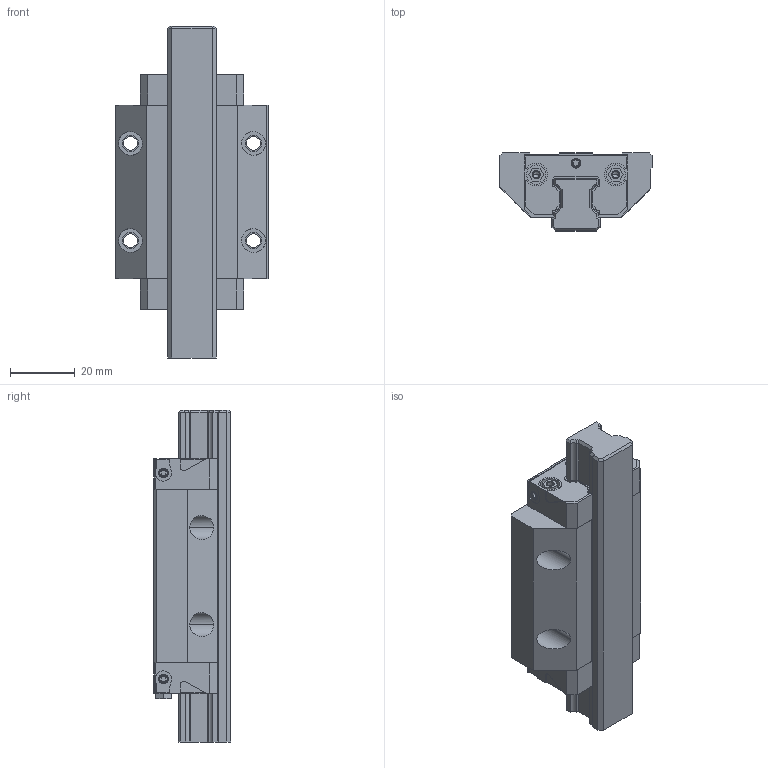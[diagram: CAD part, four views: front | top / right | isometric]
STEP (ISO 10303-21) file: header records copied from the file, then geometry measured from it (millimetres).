
FILE_DESCRIPTION((''),'2;1');
FILE_NAME('KWD_015_FLS_CS__ASM','2021-10-13T05:34:35',('ac91sw'),(''),'CREO PARAMETRIC BY PTC INC, 2020044','CREO PARAMETRIC BY PTC INC, 2020044','');
FILE_SCHEMA(('AUTOMOTIVE_DESIGN { 1 0 10303 214 1 1 1 1 }'));
Length unit declared in the file: millimetre
Products named in the file (7): KWD_015_FLS_CS__SKEL; R200210131; R200110102_Z; R343708901_Z; KWD_015_FLS_CS__PSF; R341702909_Z; KWD_015_FLS_CS__ASM
Assembly tree (11 placements, depth 2):
  KWD_015_FLS_CS__ASM
    KWD_015_FLS_CS__SKEL
    R200210131
    R200110102_Z  x2
    R343708901_Z  x5
    KWD_015_FLS_CS__PSF
    R341702909_Z
Bounding box: 47 x 24 x 102.6 mm (x, y, z)
Volume: 57558.7 mm3; surface area: 26283 mm2
Topology: 10 solids, 28 shells, 539 faces, 1390 edges, 895 vertices
Faces by surface type: plane 309, cylinder 170, cone 60
Entity records: 17501 total; most frequent: CARTESIAN_POINT 2191, DIRECTION 1844, ORIENTED_EDGE 1696, EDGE_CURVE 872, PROPERTY_DEFINITION 824, REPRESENTATION 815, PROPERTY_DEFINITION_REPRESENTATION 815, DESCRIPTIVE_REPRESENTATION_ITEM 758
